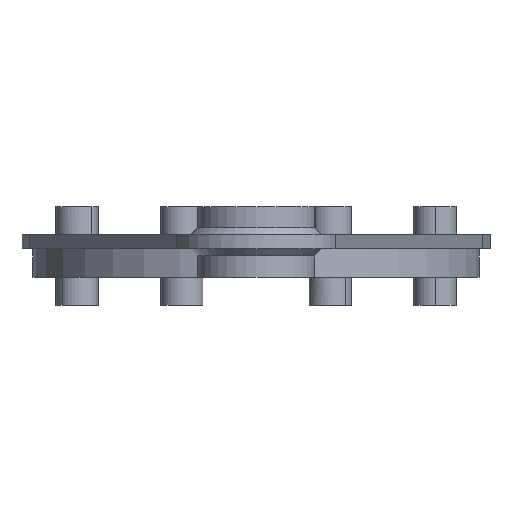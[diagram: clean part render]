
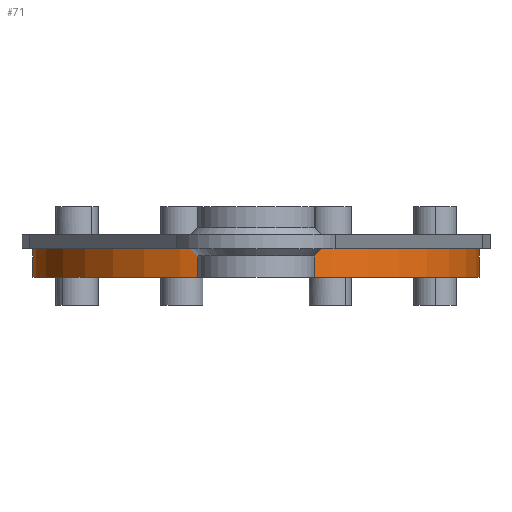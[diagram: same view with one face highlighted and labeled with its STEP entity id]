
A CAD part, front view. The second image highlights one B-rep face of the part: STEP entity #71.
In plain terms, the highlighted cylindrical face has radius 95 mm (diameter 190 mm), a partial arc.
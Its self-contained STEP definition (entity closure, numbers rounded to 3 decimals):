
#71=ADVANCED_FACE('',(#142),#1174,.T.);
#142=FACE_OUTER_BOUND('',#227,.T.);
#227=EDGE_LOOP('',(#414,#415,#416,#417));
#414=ORIENTED_EDGE('',*,*,#735,.T.);
#415=ORIENTED_EDGE('',*,*,#659,.F.);
#416=ORIENTED_EDGE('',*,*,#661,.F.);
#417=ORIENTED_EDGE('',*,*,#660,.T.);
#659=EDGE_CURVE('',#1042,#1121,#851,.T.);
#660=EDGE_CURVE('',#1068,#1120,#852,.T.);
#661=EDGE_CURVE('',#1068,#1042,#779,.T.);
#735=EDGE_CURVE('',#1120,#1121,#802,.T.);
#779=B_SPLINE_CURVE_WITH_KNOTS('',1,(#2232,#2233),.UNSPECIFIED.,.F.,.F.,
(2,2),(1.26,13.26),.UNSPECIFIED.);
#802=B_SPLINE_CURVE_WITH_KNOTS('',1,(#2431,#2432),.UNSPECIFIED.,.F.,.F.,
(2,2),(1.26,13.26),.UNSPECIFIED.);
#851=TRIMMED_CURVE($,#957,(#2227),(#2228),.T.,.CARTESIAN.);
#852=TRIMMED_CURVE($,#958,(#2230),(#2231),.T.,.CARTESIAN.);
#957=CIRCLE('',#1488,95.);
#958=CIRCLE('',#1489,95.);
#1042=VERTEX_POINT('',#1971);
#1068=VERTEX_POINT('',#1997);
#1120=VERTEX_POINT('',#2049);
#1121=VERTEX_POINT('',#2050);
#1174=CYLINDRICAL_SURFACE('',#1409,95.);
#1409=AXIS2_PLACEMENT_3D('',#1893,#1588,$);
#1488=AXIS2_PLACEMENT_3D($,#2226,#1707,#1708);
#1489=AXIS2_PLACEMENT_3D($,#2229,#1709,#1710);
#1588=DIRECTION('',(0.,0.,-1.));
#1707=DIRECTION('',(0.,0.,-1.));
#1708=DIRECTION('',(1.,0.,0.));
#1709=DIRECTION('',(0.,0.,-1.));
#1710=DIRECTION('',(1.,0.,0.));
#1893=CARTESIAN_POINT('',(0.,0.,9.));
#1971=CARTESIAN_POINT('',(95.,0.,3.));
#1997=CARTESIAN_POINT('',(95.,0.,15.));
#2049=CARTESIAN_POINT('',(-95.,0.,15.));
#2050=CARTESIAN_POINT('',(-95.,0.,3.));
#2226=CARTESIAN_POINT('',(0.,0.,3.));
#2227=CARTESIAN_POINT('',(95.,0.,3.));
#2228=CARTESIAN_POINT('',(-95.,0.,3.));
#2229=CARTESIAN_POINT('',(0.,0.,15.));
#2230=CARTESIAN_POINT('',(95.,0.,15.));
#2231=CARTESIAN_POINT('',(-95.,0.,15.));
#2232=CARTESIAN_POINT('',(95.,0.,15.));
#2233=CARTESIAN_POINT('',(95.,0.,3.));
#2431=CARTESIAN_POINT('',(-95.,0.,15.));
#2432=CARTESIAN_POINT('',(-95.,0.,3.));
